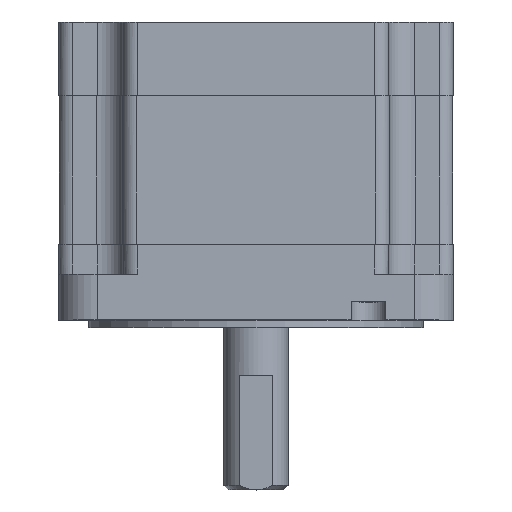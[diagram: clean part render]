
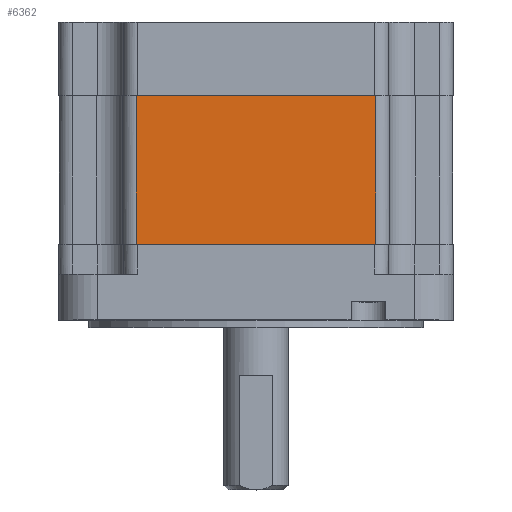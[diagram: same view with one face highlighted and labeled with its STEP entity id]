
A CAD part, top view. The second image highlights one B-rep face of the part: STEP entity #6362.
In plain terms, the highlighted planar face has unit normal (0, 0, 1).
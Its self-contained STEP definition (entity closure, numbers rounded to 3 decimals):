
#2832=CARTESIAN_POINT('',(-26.1,-17.425,42.93));
#2833=VERTEX_POINT('',#2832);
#2841=CARTESIAN_POINT('',(26.1,-17.425,42.93));
#2842=VERTEX_POINT('',#2841);
#2843=CARTESIAN_POINT('',(-26.1,-17.425,42.93));
#2844=DIRECTION('',(1.,0.,0.));
#2845=VECTOR('',#2844,52.2);
#2846=LINE('',#2843,#2845);
#2847=EDGE_CURVE('',#2833,#2842,#2846,.T.);
#6311=CARTESIAN_POINT('',(26.1,-49.925,42.93));
#6312=VERTEX_POINT('',#6311);
#6313=CARTESIAN_POINT('',(26.1,-17.425,42.93));
#6314=DIRECTION('',(0.,-1.,0.));
#6315=VECTOR('',#6314,32.5);
#6316=LINE('',#6313,#6315);
#6317=EDGE_CURVE('',#2842,#6312,#6316,.T.);
#6339=CARTESIAN_POINT('',(0.,-30.175,42.93));
#6340=DIRECTION('',(-1.,0.,0.));
#6341=DIRECTION('',(0.,0.,1.));
#6342=AXIS2_PLACEMENT_3D('',#6339,#6341,#6340);
#6343=PLANE('',#6342);
#6344=ORIENTED_EDGE('',*,*,#2847,.F.);
#6345=CARTESIAN_POINT('',(-26.1,-49.925,42.93));
#6346=VERTEX_POINT('',#6345);
#6347=CARTESIAN_POINT('',(-26.1,-17.425,42.93));
#6348=DIRECTION('',(0.,-1.,0.));
#6349=VECTOR('',#6348,32.5);
#6350=LINE('',#6347,#6349);
#6351=EDGE_CURVE('',#2833,#6346,#6350,.T.);
#6352=ORIENTED_EDGE('E528',*,*,#6351,.T.);
#6353=CARTESIAN_POINT('',(-26.1,-49.925,42.93));
#6354=DIRECTION('',(1.,0.,0.));
#6355=VECTOR('',#6354,52.2);
#6356=LINE('',#6353,#6355);
#6357=EDGE_CURVE('',#6346,#6312,#6356,.T.);
#6358=ORIENTED_EDGE('E529',*,*,#6357,.T.);
#6359=ORIENTED_EDGE('E529',*,*,#6317,.F.);
#6360=EDGE_LOOP('',(#6344,#6352,#6358,#6359));
#6361=FACE_OUTER_BOUND('',#6360,.T.);
#6362=ADVANCED_FACE('F212',(#6361),#6343,.T.);
